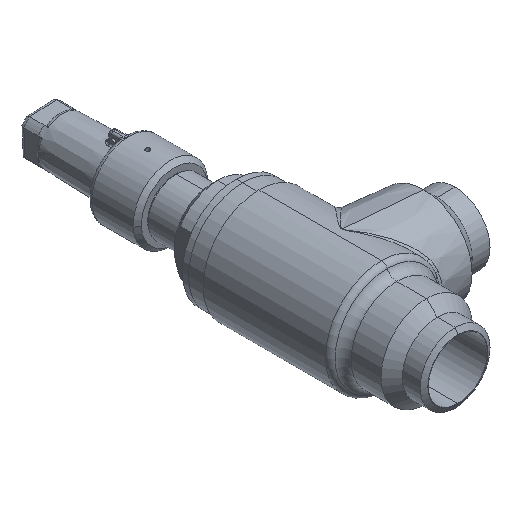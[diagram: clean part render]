
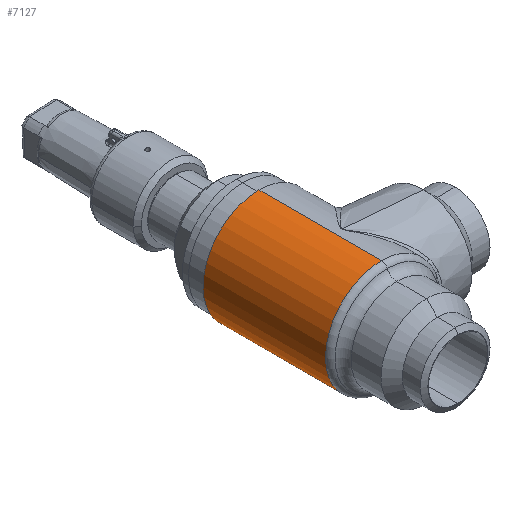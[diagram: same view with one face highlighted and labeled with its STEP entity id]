
A CAD part, isometric view. The second image highlights one B-rep face of the part: STEP entity #7127.
In plain terms, the highlighted cylindrical face has radius 27 mm (diameter 54 mm), a partial arc.
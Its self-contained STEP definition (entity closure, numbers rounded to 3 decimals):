
#16712 = VERTEX_POINT ( 'NONE', #12151 ) ;
#17119 = EDGE_CURVE ( 'NONE', #16712, #11993, #13106, .T. ) ;
#17651 = LINE ( 'NONE', #17652, #17653 ) ;
#17652 = CARTESIAN_POINT ( 'NONE',  ( 0., -69.5, 27. ) ) ;
#17653 = VECTOR ( 'NONE', #17654, 1000. ) ;
#17654 = DIRECTION ( 'NONE',  ( 0., 1., 0. ) ) ;
#19845 = EDGE_CURVE ( 'NONE', #11993, #20705, #17651, .T. ) ;
#20705 = VERTEX_POINT ( 'NONE', #9321 ) ;
#4373 = EDGE_CURVE ( 'NONE', #20705, #8628, #12839, .T. ) ;
#4728 = ORIENTED_EDGE ( 'NONE', *, *, #4373, .T. ) ;
#5392 = ORIENTED_EDGE ( 'NONE', *, *, #19845, .T. ) ;
#5723 = CARTESIAN_POINT ( 'NONE',  ( 0., -67.084, 27. ) ) ;
#5895 = ORIENTED_EDGE ( 'NONE', *, *, #17119, .T. ) ;
#6399 = ORIENTED_EDGE ( 'NONE', *, *, #8839, .F. ) ;
#6891 = EDGE_LOOP ( 'NONE', ( #6399, #5895, #5392, #4728 ) ) ;
#7127 = ADVANCED_FACE ( 'NONE', ( #7279 ), #7280, .T. ) ;
#7279 = FACE_OUTER_BOUND ( 'NONE', #6891, .T. ) ;
#7280 = CYLINDRICAL_SURFACE ( 'NONE', #7281, 27. ) ;
#7281 = AXIS2_PLACEMENT_3D ( 'NONE', #7282, #7283, #7284 ) ;
#7282 = CARTESIAN_POINT ( 'NONE',  ( 0., -69.5, 0. ) ) ;
#7283 = DIRECTION ( 'NONE',  ( 0., 1., 0. ) ) ;
#7284 = DIRECTION ( 'NONE',  ( 0., 0., 1. ) ) ;
#8628 = VERTEX_POINT ( 'NONE', #11165 ) ;
#8839 = EDGE_CURVE ( 'NONE', #16712, #8628, #12152, .T. ) ;
#9321 = CARTESIAN_POINT ( 'NONE',  ( 0., -8., 27. ) ) ;
#11165 = CARTESIAN_POINT ( 'NONE',  ( 0., -8., -27. ) ) ;
#11993 = VERTEX_POINT ( 'NONE', #5723 ) ;
#12151 = CARTESIAN_POINT ( 'NONE',  ( 0., -67.084, -27. ) ) ;
#12152 = LINE ( 'NONE', #12153, #12154 ) ;
#12153 = CARTESIAN_POINT ( 'NONE',  ( 0., -69.5, -27. ) ) ;
#12154 = VECTOR ( 'NONE', #12155, 1000. ) ;
#12155 = DIRECTION ( 'NONE',  ( 0., 1., 0. ) ) ;
#12839 = CIRCLE ( 'NONE', #12840, 27. ) ;
#12840 = AXIS2_PLACEMENT_3D ( 'NONE', #12841, #12842, #12843 ) ;
#12841 = CARTESIAN_POINT ( 'NONE',  ( 0., -8., 0. ) ) ;
#12842 = DIRECTION ( 'NONE',  ( 0., -1., 0. ) ) ;
#12843 = DIRECTION ( 'NONE',  ( 0., 0., 1. ) ) ;
#13106 = CIRCLE ( 'NONE', #13107, 27. ) ;
#13107 = AXIS2_PLACEMENT_3D ( 'NONE', #13108, #13109, #13130 ) ;
#13108 = CARTESIAN_POINT ( 'NONE',  ( 0., -67.084, 0. ) ) ;
#13109 = DIRECTION ( 'NONE',  ( 0., 1., 0. ) ) ;
#13130 = DIRECTION ( 'NONE',  ( 0., 0., -1. ) ) ;
